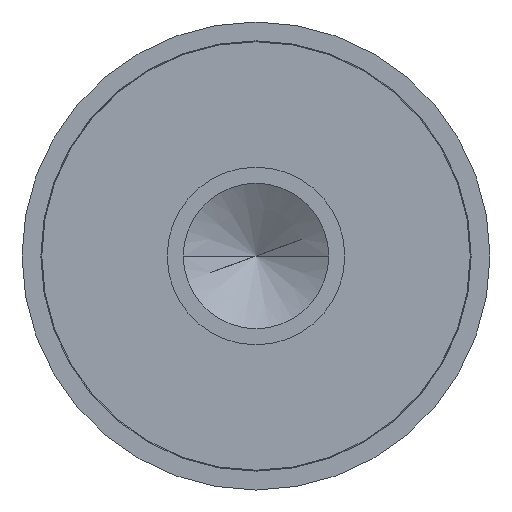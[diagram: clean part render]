
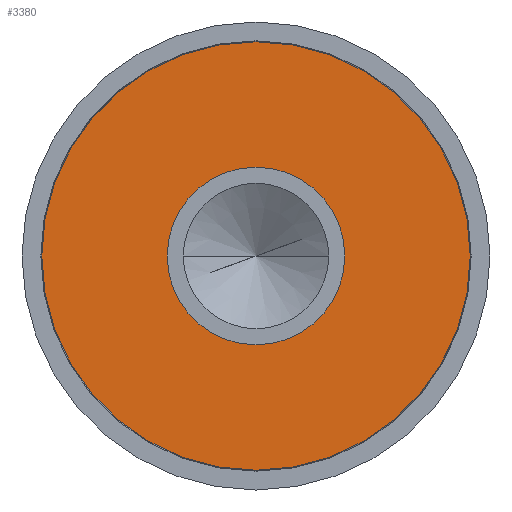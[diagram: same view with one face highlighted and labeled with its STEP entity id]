
A CAD part, left-side view. The second image highlights one B-rep face of the part: STEP entity #3380.
In plain terms, the highlighted planar face has unit normal (-1, 0, 0).
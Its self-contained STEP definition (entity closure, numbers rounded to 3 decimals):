
#2320=CARTESIAN_POINT('',(0.,4.216,0.));
#2330=VERTEX_POINT('',#2320);
#2360=CARTESIAN_POINT('',(0.,0.,0.
));
#2370=DIRECTION('',(-1.,0.,0.));
#2380=DIRECTION('',(0.,1.,0.));
#2390=AXIS2_PLACEMENT_3D('',#2360,#2370,#2380);
#2400=CIRCLE('',#2390,4.216);
#2410=CARTESIAN_POINT('',(0.,-4.216,0.));
#2420=VERTEX_POINT('',#2410);
#2430=EDGE_CURVE('',#2420,#2330,#2400,.T.);
#3050=CARTESIAN_POINT('',(0.,-10.295,10.295));
#3060=DIRECTION('',(1.,0.,0.));
#3070=DIRECTION('',(0.,-1.,0.));
#3080=AXIS2_PLACEMENT_3D('',#3050,#3060,#3070);
#3090=PLANE('',#3080);
#3100=CARTESIAN_POINT('',(0.,0.,0.))
;
#3110=DIRECTION('',(1.,-0.,-0.));
#3120=DIRECTION('',(0.,1.,0.));
#3130=AXIS2_PLACEMENT_3D('',#3100,#3110,#3120);
#3140=CIRCLE('',#3130,10.173);
#3150=CARTESIAN_POINT('',(0.,0.,10.173));
#3160=VERTEX_POINT('',#3150);
#3170=CARTESIAN_POINT('',(0.,-10.173,0.));
#3180=VERTEX_POINT('',#3170);
#3190=EDGE_CURVE('',#3160,#3180,#3140,.T.);
#3200=ORIENTED_EDGE('',*,*,#3190,.F.);
#3210=CARTESIAN_POINT('',(0.,10.173,0.));
#3220=VERTEX_POINT('',#3210);
#3230=EDGE_CURVE('',#3180,#3220,#3140,.T.);
#3240=ORIENTED_EDGE('',*,*,#3230,.F.);
#3250=EDGE_CURVE('',#3220,#3160,#3140,.T.);
#3260=ORIENTED_EDGE('',*,*,#3250,.F.);
#3270=EDGE_LOOP('',(#3260,#3240,#3200));
#3280=FACE_OUTER_BOUND('',#3270,.T.);
#3290=CARTESIAN_POINT('',(0.,0.,-4.216));
#3300=VERTEX_POINT('',#3290);
#3310=EDGE_CURVE('',#3300,#2420,#2400,.T.);
#3320=ORIENTED_EDGE('',*,*,#3310,.F.);
#3330=ORIENTED_EDGE('',*,*,#2430,.F.);
#3340=EDGE_CURVE('',#2330,#3300,#2400,.T.);
#3350=ORIENTED_EDGE('',*,*,#3340,.F.);
#3360=EDGE_LOOP('',(#3350,#3330,#3320));
#3370=FACE_BOUND('',#3360,.T.);
#3380=ADVANCED_FACE('',(#3280,#3370),#3090,.F.);
